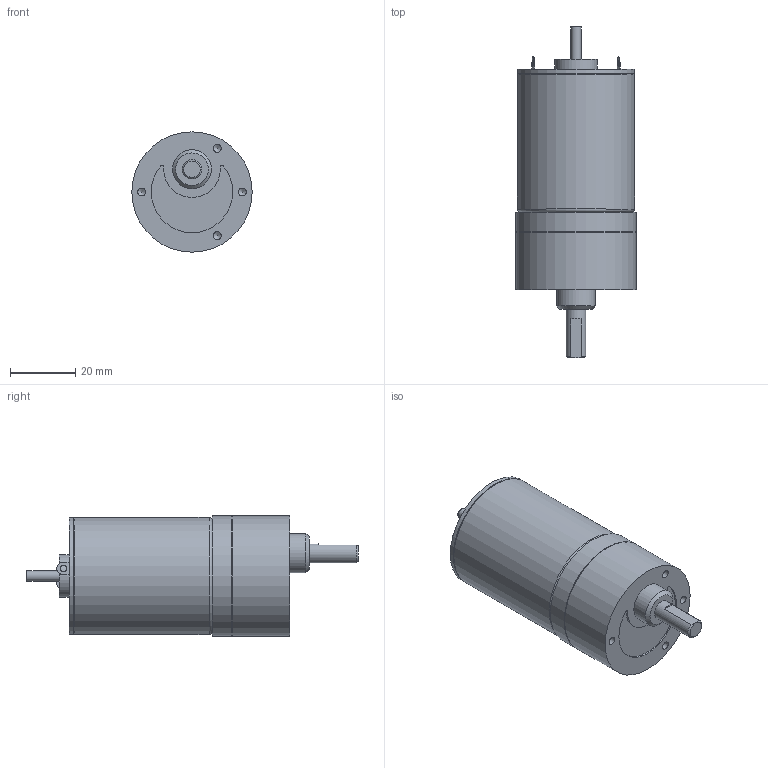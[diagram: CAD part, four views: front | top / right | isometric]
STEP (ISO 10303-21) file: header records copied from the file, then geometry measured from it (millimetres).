
FILE_DESCRIPTION((''),'2;1');
FILE_NAME('C:\Documents and Settings\SSEGAWA\デスクトップ\TP-3644L-HM-2.STP','2013-07-26T17:02:40',('SSEGAWA'),(''),'Autodesk Inventor 2010','Autodesk Inventor 2010','');
FILE_SCHEMA(('CONFIG_CONTROL_DESIGN'));
Length unit declared in the file: millimetre
Products named in the file (1): tp_3644l_hm_2_Shrinkwrap_1
Bounding box: 37 x 102.1 x 37 mm (x, y, z)
Volume: 71628.2 mm3; surface area: 11170.9 mm2
Topology: 1 solids, 4 shells, 65 faces, 140 edges, 94 vertices
Faces by surface type: plane 27, cylinder 18, bspline 16, torus 2, cone 2
Full cylindrical faces by diameter (mm): 3 x1, 3.175 x1, 3.5 x1, 6 x1, 12 x1, 13 x1, 35.6 x1, 36 x2, 36.6 x1, 37 x2
Entity records: 1751 total; most frequent: CARTESIAN_POINT 503, DIRECTION 245, ORIENTED_EDGE 176, EDGE_LOOP 111, AXIS2_PLACEMENT_3D 109, EDGE_CURVE 88, VERTEX_POINT 73, STYLED_ITEM 66
